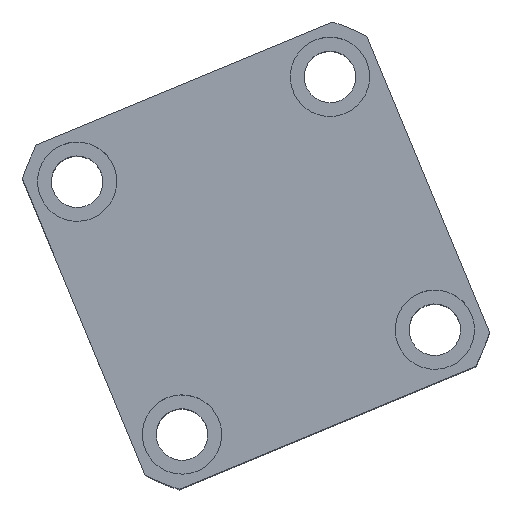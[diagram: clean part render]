
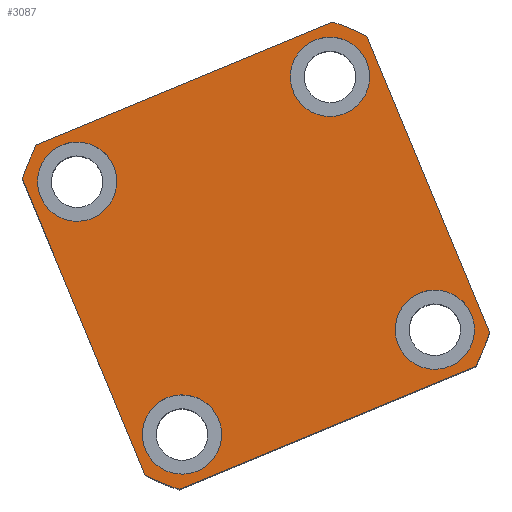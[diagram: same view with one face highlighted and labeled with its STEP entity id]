
A CAD part, top view. The second image highlights one B-rep face of the part: STEP entity #3087.
In plain terms, the highlighted planar face has unit normal (0, 0, 1) as drawn and (0, 0, -1) by its records, which use the part's own axes.
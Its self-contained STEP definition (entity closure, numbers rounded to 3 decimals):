
#75 = DIRECTION ( 'NONE',  ( -1., 0., 0. ) ) ;
#228 = DIRECTION ( 'NONE',  ( 0., 0., -1. ) ) ;
#285 = EDGE_CURVE ( 'NONE', #11385, #12029, #3797, .T. ) ;
#654 = VECTOR ( 'NONE', #15209, 1000. ) ;
#821 = FACE_BOUND ( 'NONE', #2977, .T. ) ;
#1143 = VERTEX_POINT ( 'NONE', #8191 ) ;
#1234 = FACE_BOUND ( 'NONE', #15475, .T. ) ;
#1419 = VECTOR ( 'NONE', #75, 1000. ) ;
#1437 = CARTESIAN_POINT ( 'NONE',  ( -47., 47., 0. ) ) ;
#1449 = CARTESIAN_POINT ( 'NONE',  ( 0., 0., 0. ) ) ;
#1454 = AXIS2_PLACEMENT_3D ( 'NONE', #3178, #12729, #4561 ) ;
#1526 = VERTEX_POINT ( 'NONE', #3917 ) ;
#1676 = CIRCLE ( 'NONE', #14801, 10. ) ;
#1693 = DIRECTION ( 'NONE',  ( 0., 0., -1. ) ) ;
#1907 = EDGE_CURVE ( 'NONE', #6888, #14357, #15083, .T. ) ;
#2194 = CIRCLE ( 'NONE', #13884, 10. ) ;
#2344 = DIRECTION ( 'NONE',  ( 0., 0., 1. ) ) ;
#2424 = VERTEX_POINT ( 'NONE', #7892 ) ;
#2512 = CARTESIAN_POINT ( 'NONE',  ( -34.5, 34.5, 0. ) ) ;
#2605 = CARTESIAN_POINT ( 'NONE',  ( 0., 0., 0. ) ) ;
#2772 = DIRECTION ( 'NONE',  ( 0., 0., -1. ) ) ;
#2822 = DIRECTION ( 'NONE',  ( 1., 0., 0. ) ) ;
#2932 = CARTESIAN_POINT ( 'NONE',  ( 44.5, 34.5, 0. ) ) ;
#2977 = EDGE_LOOP ( 'NONE', ( #17324, #16315 ) ) ;
#3087 = ADVANCED_FACE ( 'NONE', ( #11716, #15328, #1234, #821, #14894 ), #3889, .F. ) ;
#3119 = AXIS2_PLACEMENT_3D ( 'NONE', #2605, #3986, #10792 ) ;
#3178 = CARTESIAN_POINT ( 'NONE',  ( 34.5, 34.5, 0. ) ) ;
#3244 = EDGE_CURVE ( 'NONE', #8087, #1143, #3584, .T. ) ;
#3271 = AXIS2_PLACEMENT_3D ( 'NONE', #5318, #14849, #6685 ) ;
#3336 = CARTESIAN_POINT ( 'NONE',  ( -40.435, -47., 0. ) ) ;
#3342 = DIRECTION ( 'NONE',  ( 0., 1., 0. ) ) ;
#3376 = AXIS2_PLACEMENT_3D ( 'NONE', #10522, #2344, #11894 ) ;
#3394 = DIRECTION ( 'NONE',  ( 0., 0., -1. ) ) ;
#3537 = ORIENTED_EDGE ( 'NONE', *, *, #16523, .F. ) ;
#3563 = EDGE_LOOP ( 'NONE', ( #7762, #14283 ) ) ;
#3584 = CIRCLE ( 'NONE', #7020, 10. ) ;
#3596 = VERTEX_POINT ( 'NONE', #12351 ) ;
#3671 = VERTEX_POINT ( 'NONE', #2932 ) ;
#3733 = AXIS2_PLACEMENT_3D ( 'NONE', #4516, #14057, #5891 ) ;
#3797 = CIRCLE ( 'NONE', #3119, 62. ) ;
#3889 = PLANE ( 'NONE',  #3376 ) ;
#3892 = DIRECTION ( 'NONE',  ( -1., 0., 0. ) ) ;
#3917 = CARTESIAN_POINT ( 'NONE',  ( -24.5, -34.5, 0. ) ) ;
#3986 = DIRECTION ( 'NONE',  ( 0., 0., 1. ) ) ;
#4234 = VECTOR ( 'NONE', #3342, 1000. ) ;
#4255 = LINE ( 'NONE', #5672, #654 ) ;
#4463 = VERTEX_POINT ( 'NONE', #8702 ) ;
#4516 = CARTESIAN_POINT ( 'NONE',  ( -34.5, 34.5, 0. ) ) ;
#4561 = DIRECTION ( 'NONE',  ( -1., 0., 0. ) ) ;
#5068 = LINE ( 'NONE', #1437, #1419 ) ;
#5180 = VECTOR ( 'NONE', #11302, 1000. ) ;
#5318 = CARTESIAN_POINT ( 'NONE',  ( 0., 0., 0. ) ) ;
#5388 = EDGE_CURVE ( 'NONE', #2424, #6888, #5068, .T. ) ;
#5672 = CARTESIAN_POINT ( 'NONE',  ( -47., 47., 0. ) ) ;
#5877 = ORIENTED_EDGE ( 'NONE', *, *, #11539, .F. ) ;
#5891 = DIRECTION ( 'NONE',  ( -1., 0., 0. ) ) ;
#5973 = ORIENTED_EDGE ( 'NONE', *, *, #3244, .F. ) ;
#6122 = CARTESIAN_POINT ( 'NONE',  ( 24.5, -34.5, 0. ) ) ;
#6167 = ORIENTED_EDGE ( 'NONE', *, *, #1907, .F. ) ;
#6201 = CARTESIAN_POINT ( 'NONE',  ( -44.5, 34.5, 0. ) ) ;
#6202 = ORIENTED_EDGE ( 'NONE', *, *, #285, .F. ) ;
#6313 = EDGE_CURVE ( 'NONE', #6933, #11834, #2194, .T. ) ;
#6676 = CARTESIAN_POINT ( 'NONE',  ( 0., 0., 0. ) ) ;
#6685 = DIRECTION ( 'NONE',  ( 1., 0., 0. ) ) ;
#6798 = CIRCLE ( 'NONE', #10816, 62. ) ;
#6814 = CIRCLE ( 'NONE', #3733, 10. ) ;
#6888 = VERTEX_POINT ( 'NONE', #13315 ) ;
#6933 = VERTEX_POINT ( 'NONE', #9257 ) ;
#7020 = AXIS2_PLACEMENT_3D ( 'NONE', #2512, #12063, #3892 ) ;
#7283 = CARTESIAN_POINT ( 'NONE',  ( -47., 40.435, 0. ) ) ;
#7313 = CARTESIAN_POINT ( 'NONE',  ( -34.5, -34.5, 0. ) ) ;
#7407 = EDGE_CURVE ( 'NONE', #8004, #11385, #15647, .T. ) ;
#7444 = EDGE_LOOP ( 'NONE', ( #8846, #5877 ) ) ;
#7454 = LINE ( 'NONE', #12896, #4234 ) ;
#7480 = EDGE_CURVE ( 'NONE', #15645, #3671, #15199, .T. ) ;
#7762 = ORIENTED_EDGE ( 'NONE', *, *, #14039, .F. ) ;
#7892 = CARTESIAN_POINT ( 'NONE',  ( 40.435, 47., 0. ) ) ;
#7968 = ORIENTED_EDGE ( 'NONE', *, *, #5388, .F. ) ;
#8004 = VERTEX_POINT ( 'NONE', #3336 ) ;
#8048 = DIRECTION ( 'NONE',  ( 1., 0., 0. ) ) ;
#8087 = VERTEX_POINT ( 'NONE', #6201 ) ;
#8191 = CARTESIAN_POINT ( 'NONE',  ( -24.5, 34.5, 0. ) ) ;
#8410 = CARTESIAN_POINT ( 'NONE',  ( 34.5, -34.5, 0. ) ) ;
#8688 = DIRECTION ( 'NONE',  ( -1., 0., 0. ) ) ;
#8699 = ORIENTED_EDGE ( 'NONE', *, *, #13757, .F. ) ;
#8702 = CARTESIAN_POINT ( 'NONE',  ( -47., -40.435, 0. ) ) ;
#8815 = EDGE_LOOP ( 'NONE', ( #8699, #11554, #6202, #17553, #11269, #13719, #6167, #7968 ) ) ;
#8846 = ORIENTED_EDGE ( 'NONE', *, *, #14878, .F. ) ;
#9257 = CARTESIAN_POINT ( 'NONE',  ( 44.5, -34.5, 0. ) ) ;
#9572 = CIRCLE ( 'NONE', #13316, 10. ) ;
#9770 = DIRECTION ( 'NONE',  ( -1., 0., 0. ) ) ;
#9866 = CARTESIAN_POINT ( 'NONE',  ( 34.5, 34.5, 0. ) ) ;
#10202 = CARTESIAN_POINT ( 'NONE',  ( 47., 40.435, 0. ) ) ;
#10346 = CARTESIAN_POINT ( 'NONE',  ( 47., -40.435, 0. ) ) ;
#10423 = CIRCLE ( 'NONE', #12645, 10. ) ;
#10443 = CIRCLE ( 'NONE', #3271, 62. ) ;
#10448 = AXIS2_PLACEMENT_3D ( 'NONE', #6676, #16213, #8048 ) ;
#10522 = CARTESIAN_POINT ( 'NONE',  ( 0., 0., 0. ) ) ;
#10792 = DIRECTION ( 'NONE',  ( 1., 0., 0. ) ) ;
#10816 = AXIS2_PLACEMENT_3D ( 'NONE', #1449, #11005, #2822 ) ;
#10964 = CARTESIAN_POINT ( 'NONE',  ( 34.5, -34.5, 0. ) ) ;
#11005 = DIRECTION ( 'NONE',  ( 0., 0., 1. ) ) ;
#11250 = DIRECTION ( 'NONE',  ( -1., 0., 0. ) ) ;
#11269 = ORIENTED_EDGE ( 'NONE', *, *, #15385, .F. ) ;
#11302 = DIRECTION ( 'NONE',  ( 1., 0., 0. ) ) ;
#11385 = VERTEX_POINT ( 'NONE', #15906 ) ;
#11539 = EDGE_CURVE ( 'NONE', #1526, #3596, #14741, .T. ) ;
#11554 = ORIENTED_EDGE ( 'NONE', *, *, #14378, .F. ) ;
#11577 = CARTESIAN_POINT ( 'NONE',  ( -34.5, -34.5, 0. ) ) ;
#11716 = FACE_BOUND ( 'NONE', #3563, .T. ) ;
#11834 = VERTEX_POINT ( 'NONE', #6122 ) ;
#11894 = DIRECTION ( 'NONE',  ( 1., 0., 0. ) ) ;
#12029 = VERTEX_POINT ( 'NONE', #10346 ) ;
#12063 = DIRECTION ( 'NONE',  ( 0., 0., -1. ) ) ;
#12318 = DIRECTION ( 'NONE',  ( -1., 0., 0. ) ) ;
#12351 = CARTESIAN_POINT ( 'NONE',  ( -44.5, -34.5, 0. ) ) ;
#12578 = EDGE_CURVE ( 'NONE', #14357, #4463, #4255, .T. ) ;
#12645 = AXIS2_PLACEMENT_3D ( 'NONE', #9866, #1693, #11250 ) ;
#12729 = DIRECTION ( 'NONE',  ( 0., 0., -1. ) ) ;
#12799 = CARTESIAN_POINT ( 'NONE',  ( 24.5, 34.5, 0. ) ) ;
#12896 = CARTESIAN_POINT ( 'NONE',  ( 47., 47., 0. ) ) ;
#12946 = DIRECTION ( 'NONE',  ( -1., 0., 0. ) ) ;
#13315 = CARTESIAN_POINT ( 'NONE',  ( -40.435, 47., 0. ) ) ;
#13316 = AXIS2_PLACEMENT_3D ( 'NONE', #8410, #228, #9770 ) ;
#13719 = ORIENTED_EDGE ( 'NONE', *, *, #12578, .F. ) ;
#13757 = EDGE_CURVE ( 'NONE', #14414, #2424, #10443, .T. ) ;
#13884 = AXIS2_PLACEMENT_3D ( 'NONE', #10964, #2772, #12318 ) ;
#14039 = EDGE_CURVE ( 'NONE', #11834, #6933, #9572, .T. ) ;
#14057 = DIRECTION ( 'NONE',  ( 0., 0., -1. ) ) ;
#14283 = ORIENTED_EDGE ( 'NONE', *, *, #6313, .F. ) ;
#14357 = VERTEX_POINT ( 'NONE', #7283 ) ;
#14378 = EDGE_CURVE ( 'NONE', #12029, #14414, #7454, .T. ) ;
#14414 = VERTEX_POINT ( 'NONE', #10202 ) ;
#14732 = AXIS2_PLACEMENT_3D ( 'NONE', #7313, #16845, #8688 ) ;
#14741 = CIRCLE ( 'NONE', #14732, 10. ) ;
#14801 = AXIS2_PLACEMENT_3D ( 'NONE', #11577, #3394, #12946 ) ;
#14849 = DIRECTION ( 'NONE',  ( 0., 0., 1. ) ) ;
#14878 = EDGE_CURVE ( 'NONE', #3596, #1526, #1676, .T. ) ;
#14894 = FACE_OUTER_BOUND ( 'NONE', #8815, .T. ) ;
#15083 = CIRCLE ( 'NONE', #10448, 62. ) ;
#15199 = CIRCLE ( 'NONE', #1454, 10. ) ;
#15209 = DIRECTION ( 'NONE',  ( 0., -1., 0. ) ) ;
#15284 = CARTESIAN_POINT ( 'NONE',  ( -47., -47., 0. ) ) ;
#15328 = FACE_BOUND ( 'NONE', #7444, .T. ) ;
#15385 = EDGE_CURVE ( 'NONE', #4463, #8004, #6798, .T. ) ;
#15475 = EDGE_LOOP ( 'NONE', ( #5973, #3537 ) ) ;
#15523 = EDGE_CURVE ( 'NONE', #3671, #15645, #10423, .T. ) ;
#15645 = VERTEX_POINT ( 'NONE', #12799 ) ;
#15647 = LINE ( 'NONE', #15284, #5180 ) ;
#15906 = CARTESIAN_POINT ( 'NONE',  ( 40.435, -47., 0. ) ) ;
#16213 = DIRECTION ( 'NONE',  ( 0., 0., 1. ) ) ;
#16315 = ORIENTED_EDGE ( 'NONE', *, *, #15523, .F. ) ;
#16523 = EDGE_CURVE ( 'NONE', #1143, #8087, #6814, .T. ) ;
#16845 = DIRECTION ( 'NONE',  ( 0., 0., -1. ) ) ;
#17324 = ORIENTED_EDGE ( 'NONE', *, *, #7480, .F. ) ;
#17553 = ORIENTED_EDGE ( 'NONE', *, *, #7407, .F. ) ;
